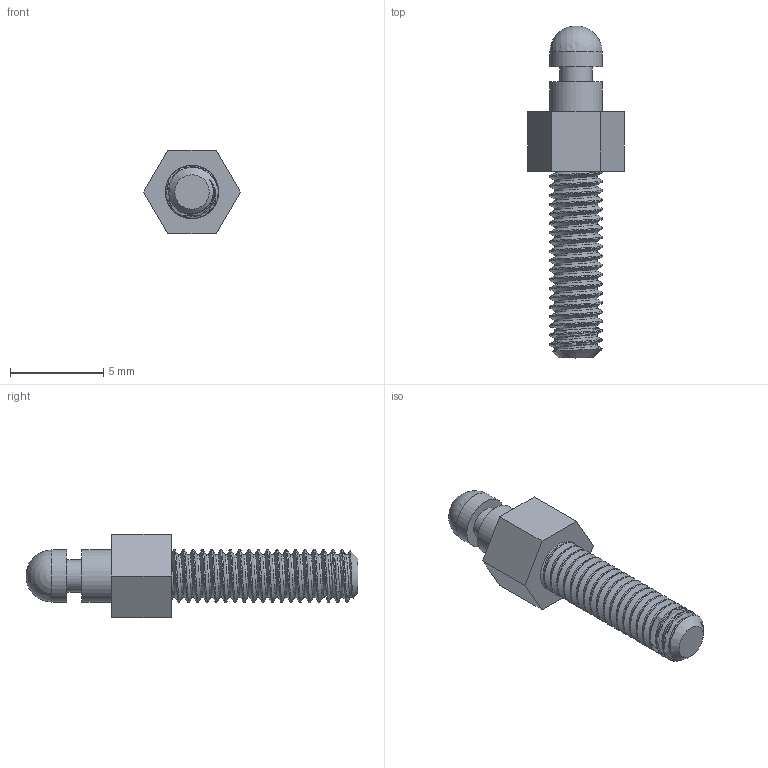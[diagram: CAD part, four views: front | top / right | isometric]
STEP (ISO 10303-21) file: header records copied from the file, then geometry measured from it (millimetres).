
FILE_DESCRIPTION (( 'STEP AP203' ), '1' );
FILE_NAME ('QLOCKPOST-5.STEP', '2026-06-16T12:29:41', ( '' ), ( '' ), 'SwSTEP 2.0', 'SolidWorks 2020', '' );
FILE_SCHEMA (( 'CONFIG_CONTROL_DESIGN' ));
Length unit declared in the file: millimetre
Products named in the file (1): QLOCKPOST-5
Bounding box: 5.2 x 17.8 x 4.5 mm (x, y, z)
Volume: 126.8 mm3; surface area: 250 mm2
Topology: 1 solids, 1 shells, 22 faces, 50 edges, 32 vertices
Faces by surface type: plane 12, bspline 4, cylinder 4, sphere 1, cone 1
Full cylindrical faces by diameter (mm): 1.75 x1, 2.8 x2
Entity records: 3737 total; most frequent: CARTESIAN_POINT 3248, ORIENTED_EDGE 80, DIRECTION 76, EDGE_CURVE 40, EDGE_LOOP 30, VERTEX_POINT 28, AXIS2_PLACEMENT_3D 27, FACE_OUTER_BOUND 25
